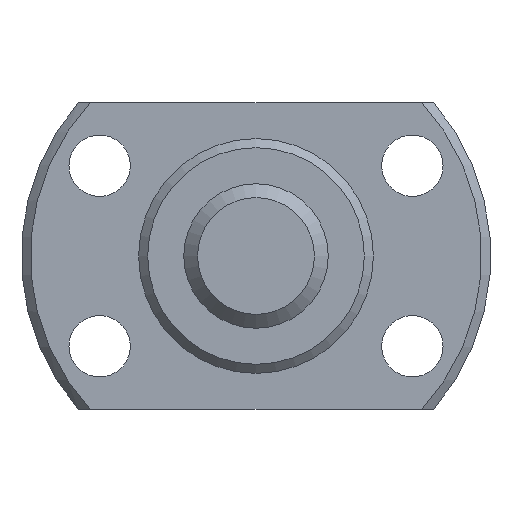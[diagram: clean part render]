
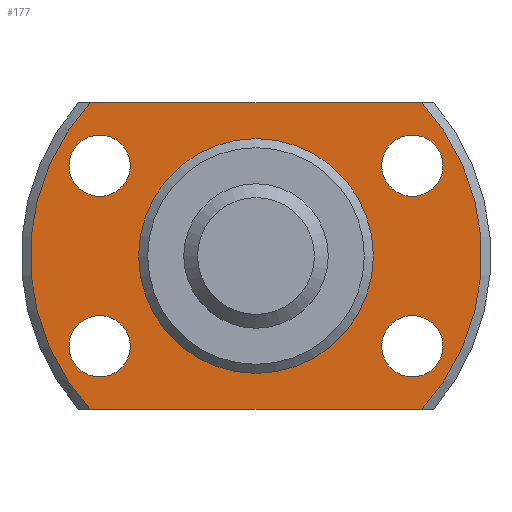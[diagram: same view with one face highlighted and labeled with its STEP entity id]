
A CAD part, left-side view. The second image highlights one B-rep face of the part: STEP entity #177.
In plain terms, the highlighted planar face has unit normal (-1, 0, 0) as drawn and (1, 0, 0) by its records, which use the part's own axes.
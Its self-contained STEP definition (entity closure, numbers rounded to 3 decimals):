
#177 = ADVANCED_FACE( '', ( #217, #218, #219, #220, #221, #222 ), #223, .T. );
#217 = FACE_OUTER_BOUND( '', #294, .T. );
#218 = FACE_BOUND( '', #295, .T. );
#219 = FACE_BOUND( '', #296, .T. );
#220 = FACE_BOUND( '', #297, .T. );
#221 = FACE_BOUND( '', #298, .T. );
#222 = FACE_BOUND( '', #299, .T. );
#223 = PLANE( '', #300 );
#294 = EDGE_LOOP( '', ( #396, #397, #398, #399 ) );
#295 = EDGE_LOOP( '', ( #400 ) );
#296 = EDGE_LOOP( '', ( #401 ) );
#297 = EDGE_LOOP( '', ( #402 ) );
#298 = EDGE_LOOP( '', ( #403 ) );
#299 = EDGE_LOOP( '', ( #404 ) );
#300 = AXIS2_PLACEMENT_3D( '', #405, #406, #407 );
#396 = ORIENTED_EDGE( '', *, *, #528, .T. );
#397 = ORIENTED_EDGE( '', *, *, #530, .T. );
#398 = ORIENTED_EDGE( '', *, *, #532, .T. );
#399 = ORIENTED_EDGE( '', *, *, #533, .T. );
#400 = ORIENTED_EDGE( '', *, *, #534, .F. );
#401 = ORIENTED_EDGE( '', *, *, #535, .F. );
#402 = ORIENTED_EDGE( '', *, *, #536, .F. );
#403 = ORIENTED_EDGE( '', *, *, #537, .F. );
#404 = ORIENTED_EDGE( '', *, *, #538, .F. );
#405 = CARTESIAN_POINT( '', ( 4., 6.3, 0. ) );
#406 = DIRECTION( '', ( 1., 0., 0. ) );
#407 = DIRECTION( '', ( 0., 0., -1. ) );
#528 = EDGE_CURVE( '', #570, #583, #585, .T. );
#530 = EDGE_CURVE( '', #583, #586, #589, .T. );
#532 = EDGE_CURVE( '', #586, #591, #592, .T. );
#533 = EDGE_CURVE( '', #591, #570, #593, .T. );
#534 = EDGE_CURVE( '', #594, #594, #595, .T. );
#535 = EDGE_CURVE( '', #596, #596, #597, .T. );
#536 = EDGE_CURVE( '', #598, #598, #599, .T. );
#537 = EDGE_CURVE( '', #600, #600, #601, .T. );
#538 = EDGE_CURVE( '', #602, #602, #603, .T. );
#570 = VERTEX_POINT( '', #650 );
#583 = VERTEX_POINT( '', #675 );
#585 = LINE( '', #680, #681 );
#586 = VERTEX_POINT( '', #682 );
#589 = CIRCLE( '', #688, 12.5 );
#591 = VERTEX_POINT( '', #690 );
#592 = LINE( '', #691, #692 );
#593 = CIRCLE( '', #693, 12.5 );
#594 = VERTEX_POINT( '', #694 );
#595 = CIRCLE( '', #695, 6.3 );
#596 = VERTEX_POINT( '', #696 );
#597 = CIRCLE( '', #697, 1.7 );
#598 = VERTEX_POINT( '', #698 );
#599 = CIRCLE( '', #699, 1.7 );
#600 = VERTEX_POINT( '', #700 );
#601 = CIRCLE( '', #701, 1.7 );
#602 = VERTEX_POINT( '', #702 );
#603 = CIRCLE( '', #703, 1.7 );
#650 = CARTESIAN_POINT( '', ( 4., -9.165, -8.5 ) );
#675 = CARTESIAN_POINT( '', ( 4., 9.165, -8.5 ) );
#680 = CARTESIAN_POINT( '', ( 4., -13., -8.5 ) );
#681 = VECTOR( '', #770, 1000. );
#682 = CARTESIAN_POINT( '', ( 4., 9.165, 8.5 ) );
#688 = AXIS2_PLACEMENT_3D( '', #771, #772, #773 );
#690 = CARTESIAN_POINT( '', ( 4., -9.165, 8.5 ) );
#691 = CARTESIAN_POINT( '', ( 4., 13., 8.5 ) );
#692 = VECTOR( '', #777, 1000. );
#693 = AXIS2_PLACEMENT_3D( '', #778, #779, #780 );
#694 = CARTESIAN_POINT( '', ( 4., 0., -6.3 ) );
#695 = AXIS2_PLACEMENT_3D( '', #781, #782, #783 );
#696 = CARTESIAN_POINT( '', ( 4., 8.66, 3.3 ) );
#697 = AXIS2_PLACEMENT_3D( '', #784, #785, #786 );
#698 = CARTESIAN_POINT( '', ( 4., -8.66, 3.3 ) );
#699 = AXIS2_PLACEMENT_3D( '', #787, #788, #789 );
#700 = CARTESIAN_POINT( '', ( 4., -8.66, -6.7 ) );
#701 = AXIS2_PLACEMENT_3D( '', #790, #791, #792 );
#702 = CARTESIAN_POINT( '', ( 4., 8.66, -6.7 ) );
#703 = AXIS2_PLACEMENT_3D( '', #793, #794, #795 );
#770 = DIRECTION( '', ( 0., 1., 0. ) );
#771 = CARTESIAN_POINT( '', ( 4., 0., 0. ) );
#772 = DIRECTION( '', ( 1., 0., 0. ) );
#773 = DIRECTION( '', ( 0., 0., -1. ) );
#777 = DIRECTION( '', ( 0., -1., 0. ) );
#778 = CARTESIAN_POINT( '', ( 4., 0., 0. ) );
#779 = DIRECTION( '', ( 1., 0., 0. ) );
#780 = DIRECTION( '', ( 0., 0., -1. ) );
#781 = CARTESIAN_POINT( '', ( 4., 0., 0. ) );
#782 = DIRECTION( '', ( 1., 0., 0. ) );
#783 = DIRECTION( '', ( 0., 0., -1. ) );
#784 = CARTESIAN_POINT( '', ( 4., 8.66, 5. ) );
#785 = DIRECTION( '', ( 1., 0., 0. ) );
#786 = DIRECTION( '', ( 0., 0., -1. ) );
#787 = CARTESIAN_POINT( '', ( 4., -8.66, 5. ) );
#788 = DIRECTION( '', ( 1., 0., 0. ) );
#789 = DIRECTION( '', ( 0., 0., -1. ) );
#790 = CARTESIAN_POINT( '', ( 4., -8.66, -5. ) );
#791 = DIRECTION( '', ( 1., 0., 0. ) );
#792 = DIRECTION( '', ( 0., 0., -1. ) );
#793 = CARTESIAN_POINT( '', ( 4., 8.66, -5. ) );
#794 = DIRECTION( '', ( 1., 0., 0. ) );
#795 = DIRECTION( '', ( 0., 0., -1. ) );
